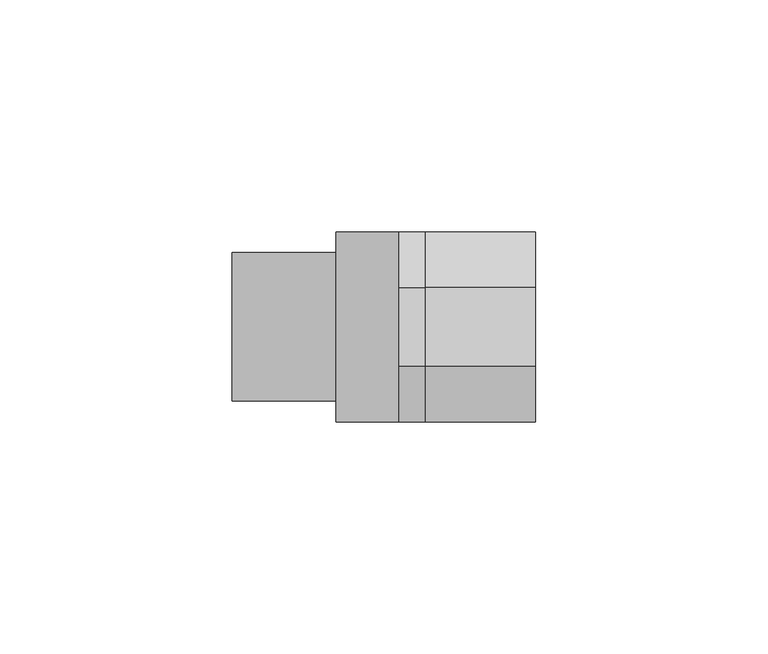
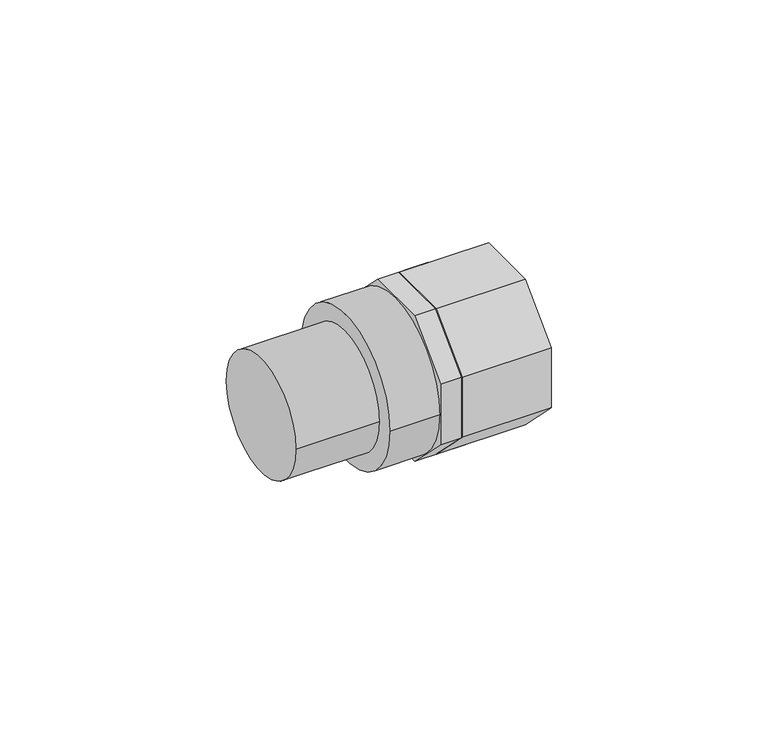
"""IFC4 building model written with IfcOpenShell, lengths in millimetres: pipe fitting geometry, PipeFitting_GirpiHTA_CPVC_AdaptorNipplesA_ForExpansionJoints : PipeFitting_GirpiHTA_CPVC_AdaptorNipplesA_ForExpansionJoints."""

from ifc_helpers import new_model, si_unit, point, frame, origin, origin_2d, place, context, project, spatial, polyline, circle_curve, trimmed, segment, composite_curve, outline, extrude, source, transform, mapped, element, save


def pipe_fitting_99158ac7(model_context):
    return source(origin(), model_context, "Body", "SweptSolid", [
        extrude(outline(polyline([(-20.5, 8.491378), (-8.491378, 20.5), (8.491378, 20.5), (20.5, 8.491378), (20.5, -8.491378), (8.491378, -20.5), (-8.491378, -20.5), (-20.5, -8.491378), (-20.5, 8.491378)])), frame((9.0, 0.0, 0.0), z_axis=(1.0, 0.0, 0.0), x_axis=(0.0, 1.0, 0.0)), (0.0, 0.0, 1.0), 23.75),
        extrude(outline(composite_curve([segment(trimmed(circle_curve(origin_2d(), 9.525), [point((-9.525, 0.0))], [point((9.525, 0.0))], False, "CARTESIAN"), True, "CONTINUOUS"), segment(trimmed(circle_curve(origin_2d(), 9.525), [point((9.525, 0.0))], [point((-9.525, 0.0))], False, "CARTESIAN"), True, "CONTINUOUS")], self_intersect=False)), frame((16.75, 0.0, 0.0), z_axis=(1.0, 0.0, 0.0), x_axis=(0.0, 1.0, 0.0)), (0.0, 0.0, 1.0), 16.0),
        extrude(outline(polyline([(8.491378, 20.5), (20.5, 8.491378), (20.5, -8.491378), (8.491378, -20.5), (-8.491378, -20.5), (-20.5, -8.491378), (-20.5, 8.491378), (-8.491378, 20.5), (8.491378, 20.5)])), frame((3.25, 0.0, 0.0), z_axis=(1.0, 0.0, 0.0), x_axis=(0.0, 1.0, 0.0)), (0.0, 0.0, 1.0), 13.5),
        extrude(outline(composite_curve([segment(trimmed(circle_curve(origin_2d(), 20.5), [point((-20.5, 0.0))], [point((20.5, 0.0))], False, "CARTESIAN"), True, "CONTINUOUS"), segment(trimmed(circle_curve(origin_2d(), 20.5), [point((20.5, 0.0))], [point((-20.5, 0.0))], False, "CARTESIAN"), True, "CONTINUOUS")], self_intersect=False)), frame((-10.25, 0.0, 0.0), z_axis=(1.0, 0.0, 0.0), x_axis=(0.0, 1.0, 0.0)), (0.0, 0.0, 1.0), 13.5),
        extrude(outline(composite_curve([segment(trimmed(circle_curve(origin_2d(), 16.0), [point((-16.0, 0.0))], [point((16.0, 0.0))], False, "CARTESIAN"), True, "CONTINUOUS"), segment(trimmed(circle_curve(origin_2d(), 16.0), [point((16.0, 0.0))], [point((-16.0, 0.0))], False, "CARTESIAN"), True, "CONTINUOUS")], self_intersect=False)), frame((-32.75, 0.0, 0.0), z_axis=(1.0, 0.0, 0.0), x_axis=(0.0, 1.0, 0.0)), (0.0, 0.0, 1.0), 22.5),
    ])


if __name__ == "__main__":
    model = new_model("IFC4")
    model_context = context("Model", 3, world=origin())
    ifc_project = project(units=[si_unit("LENGTHUNIT", "METRE", prefix="MILLI")], contexts=[model_context])
    site = spatial("IfcSite", under=ifc_project)
    building = spatial("IfcBuilding", under=site)
    placement = place(None, origin())
    pipe_fitting_shape = pipe_fitting_99158ac7(model_context)
    element("IfcPipeFitting", 1, ObjectType="PipeFitting_GirpiHTA_CPVC_AdaptorNipplesA_ForExpansionJoints : PipeFitting_GirpiHTA_CPVC_AdaptorNipplesA_ForExpansionJoints", at=placement, inside=building, context=model_context, shape_type="MappedRepresentation", body=[
        mapped(pipe_fitting_shape, transform((0.0, 0.0, 0.0), x_axis=(1.0, 0.0, 0.0), y_axis=(0.0, 1.0, 0.0), z_axis=(0.0, 0.0, 1.0))),
    ])
    save(model, "model.ifc")
